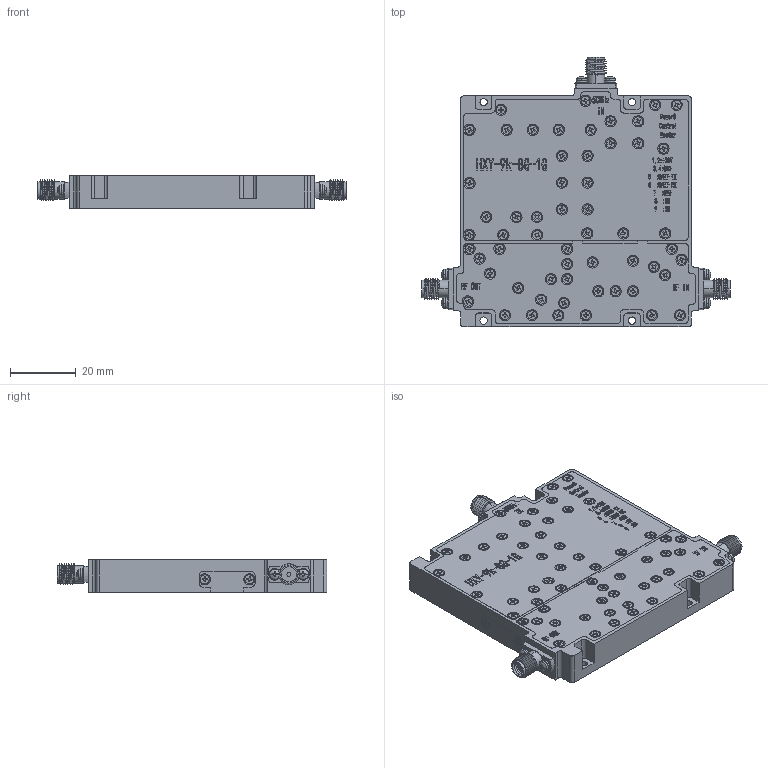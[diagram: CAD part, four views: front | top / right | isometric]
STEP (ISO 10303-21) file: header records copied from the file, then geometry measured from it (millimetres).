
FILE_DESCRIPTION (( 'STEP AP214' ), '1' );
FILE_NAME ('9K-18G×°ÅäÌå1.STEP', '2026-08-28T08:36:21', ( '' ), ( '' ), 'SwSTEP 2.0', 'SolidWorks 2020', '' );
FILE_SCHEMA (( 'AUTOMOTIVE_DESIGN' ));
Length unit declared in the file: millimetre
Products named in the file (17): cross recessed pan head screws gb_GB_CROSS_SCREWS_TYPE1 M1.6X4-4  H type-N; plain washers-s series-grade a gb_GB_FASTENER_WASHER_PWSA 1.6; 路Х; 裔啣1; PCB; 裔啣2; J63A-9; 9K-18G蚾饜极1; M1.6蹟隊郪蚾; SMA-8.6潔擒樓蹟隊; cross recessed countersunk head screws gb1_GB_CROSS_SCREWS_TYPE4 M1.6X3-2  H type-N; 褲极; 裔啣4; NY251638; SMA-8.6潔擒; spring lock washers--normal type gb_GB_FASTENER_WASHER_SW 2; 裔啣3
Assembly tree (79 placements, depth 4):
  9K-18G蚾饜极1
    褲极
    NY251638  x3
    路Х
    裔啣1
    裔啣2
    裔啣3
    裔啣4
    PCB
    J63A-9
    cross recessed countersunk head screws gb1_GB_CROSS_SCREWS_TYPE4 M1.6X3-2  H type-N  x59
    SMA-8.6潔擒樓蹟隊  x3
      SMA-8.6潔擒
      M1.6蹟隊郪蚾
        cross recessed pan head screws gb_GB_CROSS_SCREWS_TYPE1 M1.6X4-4  H type-N
        spring lock washers--normal type gb_GB_FASTENER_WASHER_SW 2
        plain washers-s series-grade a gb_GB_FASTENER_WASHER_PWSA 1.6
Bounding box: 93.5 x 81.75 x 10 mm (x, y, z)
Volume: 27913.9 mm3; surface area: 46398.9 mm2
Topology: 91 solids, 91 shells, 4585 faces, 12057 edges, 7787 vertices
Faces by surface type: plane 2412, cylinder 1454, cone 426, bspline 281, sphere 12
Entity records: 123565 total; most frequent: CARTESIAN_POINT 40607, ORIENTED_EDGE 14994, DIRECTION 13198, EDGE_CURVE 7497, VERTEX_POINT 4941, LINE 4834, VECTOR 4834, AXIS2_PLACEMENT_3D 4182
